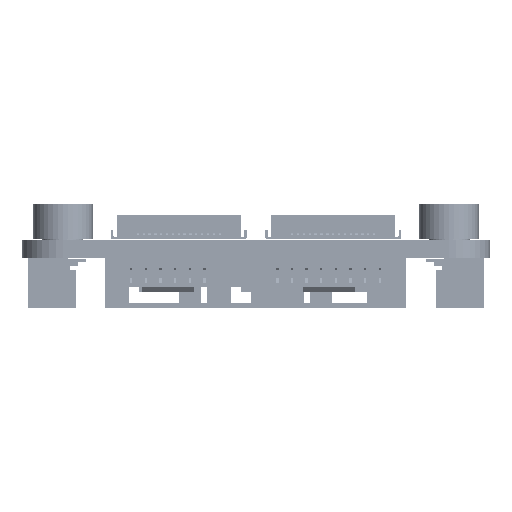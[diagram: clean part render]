
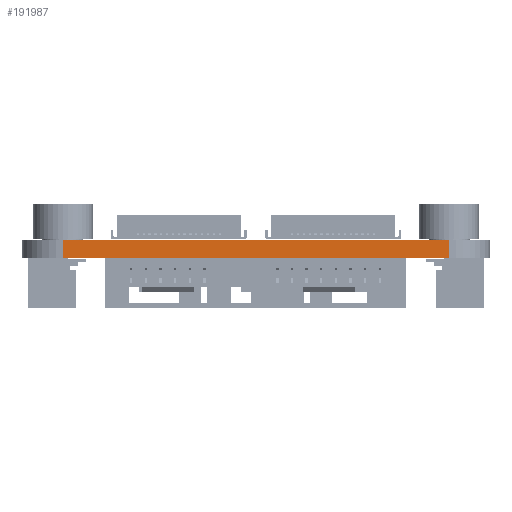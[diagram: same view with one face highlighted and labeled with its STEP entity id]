
A CAD part, front view. The second image highlights one B-rep face of the part: STEP entity #191987.
In plain terms, the highlighted planar face has unit normal (0, -1, 0).
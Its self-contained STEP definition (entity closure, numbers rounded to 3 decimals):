
#21257=FACE_OUTER_BOUND('',#29968,.T.);
#29968=EDGE_LOOP('',(#176192,#176193,#176194,#176195));
#54069=LINE('',#308140,#78176);
#54072=LINE('',#308230,#78179);
#54074=LINE('',#308311,#78181);
#54076=LINE('',#308315,#78183);
#78176=VECTOR('',#251964,1.);
#78179=VECTOR('',#252053,1.);
#78181=VECTOR('',#252137,1.);
#78183=VECTOR('',#252143,1.);
#98125=VERTEX_POINT('',#308137);
#98126=VERTEX_POINT('',#308139);
#98169=VERTEX_POINT('',#308227);
#98170=VERTEX_POINT('',#308229);
#125716=EDGE_CURVE('',#98125,#98126,#54069,.T.);
#125761=EDGE_CURVE('',#98170,#98169,#54072,.T.);
#125802=EDGE_CURVE('',#98125,#98170,#54074,.T.);
#125804=EDGE_CURVE('',#98126,#98169,#54076,.T.);
#176192=ORIENTED_EDGE('',*,*,#125802,.T.);
#176193=ORIENTED_EDGE('',*,*,#125761,.T.);
#176194=ORIENTED_EDGE('',*,*,#125804,.F.);
#176195=ORIENTED_EDGE('',*,*,#125716,.F.);
#183599=PLANE('',#204168);
#191987=ADVANCED_FACE('',(#21257),#183599,.T.);
#204168=AXIS2_PLACEMENT_3D('',#308314,#252141,#252142);
#251964=DIRECTION('',(-1.,0.,0.));
#252053=DIRECTION('',(-1.,0.,0.));
#252137=DIRECTION('',(0.,0.,1.));
#252141=DIRECTION('center_axis',(0.,-1.,0.));
#252142=DIRECTION('ref_axis',(-1.,0.,0.));
#252143=DIRECTION('',(0.,0.,1.));
#308137=CARTESIAN_POINT('',(16.5,-27.5,0.));
#308139=CARTESIAN_POINT('',(-16.5,-27.5,0.));
#308140=CARTESIAN_POINT('',(16.5,-27.5,0.));
#308227=CARTESIAN_POINT('',(-16.5,-27.5,1.51));
#308229=CARTESIAN_POINT('',(16.5,-27.5,1.51));
#308230=CARTESIAN_POINT('',(16.5,-27.5,1.51));
#308311=CARTESIAN_POINT('',(16.5,-27.5,0.));
#308314=CARTESIAN_POINT('Origin',(16.5,-27.5,0.));
#308315=CARTESIAN_POINT('',(-16.5,-27.5,0.));
